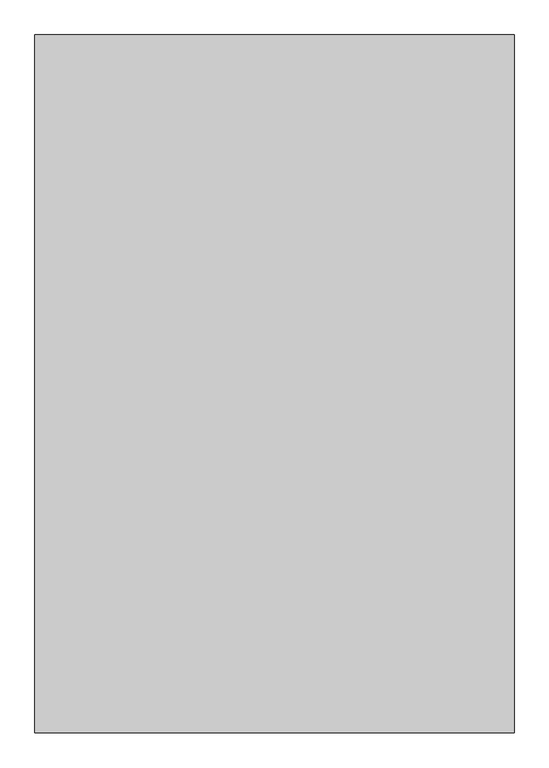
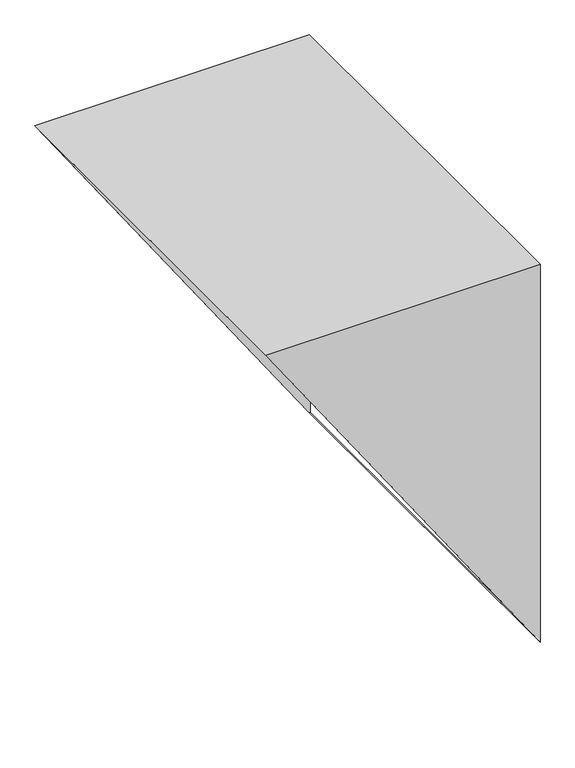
"""IFC4 building model written with IfcOpenShell, lengths in millimetres: duct fitting geometry, MERCOR - Czerpnia do obudowy skrzynkowej : Czerpnia do układu mcr EXi-F 100-1S."""

from ifc_helpers import new_model, si_unit, origin, place, context, project, spatial, faceted_brep, source, transform, mapped, element, save


def duct_fitting_7b086355(model_context):
    return source(origin(), model_context, "Body", "Brep", [
        faceted_brep([(0.0, 550.0, -550.0), (0.0, 550.0, 550.0), (0.0, -550.0, 550.0), (0.0, -550.0, -550.0), (0.0, 546.0, -546.0), (0.0, -546.0, -546.0), (0.0, -546.0, 546.0), (0.0, 546.0, 546.0), (-755.0, 550.0, 550.0), (-755.0, -550.0, 550.0), (-2.7454545, 546.0, -546.0), (-2.7454545, -546.0, -546.0), (-752.2545455, 546.0, 546.0), (-752.2545455, -546.0, 546.0)], [[[0, 1, 2, 3], [4, 5, 6, 7]], [[1, 0, 8]], [[2, 1, 8, 9]], [[3, 2, 9]], [[5, 4, 10, 11]], [[4, 7, 12, 10]], [[7, 6, 13, 12]], [[6, 5, 11, 13]], [[0, 3, 9, 8], [11, 10, 12, 13]]]),
    ])


if __name__ == "__main__":
    model = new_model("IFC4")
    model_context = context("Model", 3, world=origin())
    ifc_project = project(units=[si_unit("LENGTHUNIT", "METRE", prefix="MILLI")], contexts=[model_context])
    site = spatial("IfcSite", under=ifc_project)
    building = spatial("IfcBuilding", under=site)
    placement = place(None, origin())
    duct_fitting_shape = duct_fitting_7b086355(model_context)
    element("IfcDuctFitting", 1, ObjectType="MERCOR - Czerpnia do obudowy skrzynkowej : Czerpnia do układu mcr EXi-F 100-1S", at=placement, inside=building, context=model_context, shape_type="MappedRepresentation", body=[
        mapped(duct_fitting_shape, transform((0.0, 0.0, 0.0), x_axis=(1.0, 0.0, 0.0), y_axis=(0.0, 1.0, 0.0), z_axis=(0.0, 0.0, 1.0))),
    ])
    save(model, "model.ifc")
